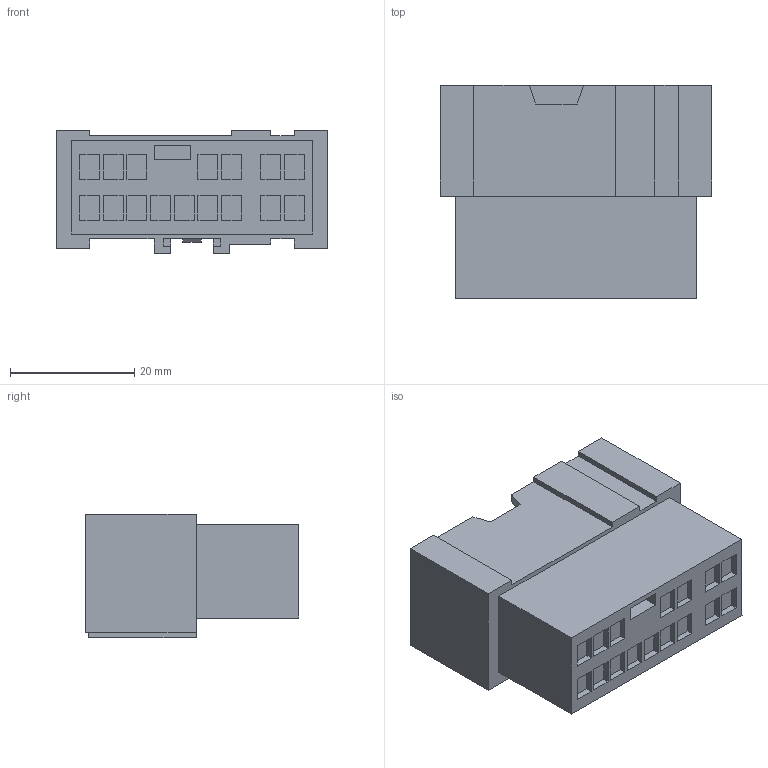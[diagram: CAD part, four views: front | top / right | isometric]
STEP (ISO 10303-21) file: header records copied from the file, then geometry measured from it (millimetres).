
FILE_DESCRIPTION(('CATIA V5 STEP','CAx-IF Rec.Pracs.--- Model Styling and Organization---1.4--- 2014-01-23'),'2;1');
FILE_NAME('\\fss02.ad.sws.co.jp\fs100016\第3設計部\共有\コネクタ第1Gr\【91】一時保管\★カタログ用参考資料\簡易３D\stp_送付用\6098-6986.stp','2024-10-07T06:29:11+00:00',('none'),('none'),'CATIA Version 5-6 Release 2018 SP4','CATIA V5 STEP AP214','none');
FILE_SCHEMA(('AUTOMOTIVE_DESIGN { 1 0 10303 214 1 1 1 1 }'));
Length unit declared in the file: millimetre
Products named in the file (1): 6098-6986
Bounding box: 43.6 x 34.25 x 19.8 mm (x, y, z)
Volume: 14203.6 mm3; surface area: 8949.3 mm2
Topology: 1 solids, 1 shells, 258 faces, 667 edges, 444 vertices
Faces by surface type: plane 258
Entity records: 6991 total; most frequent: ORIENTED_EDGE 1334, CARTESIAN_POINT 1224, DIRECTION 891, VECTOR 667, EDGE_CURVE 667, LINE 667, VERTEX_POINT 444, EDGE_LOOP 293
